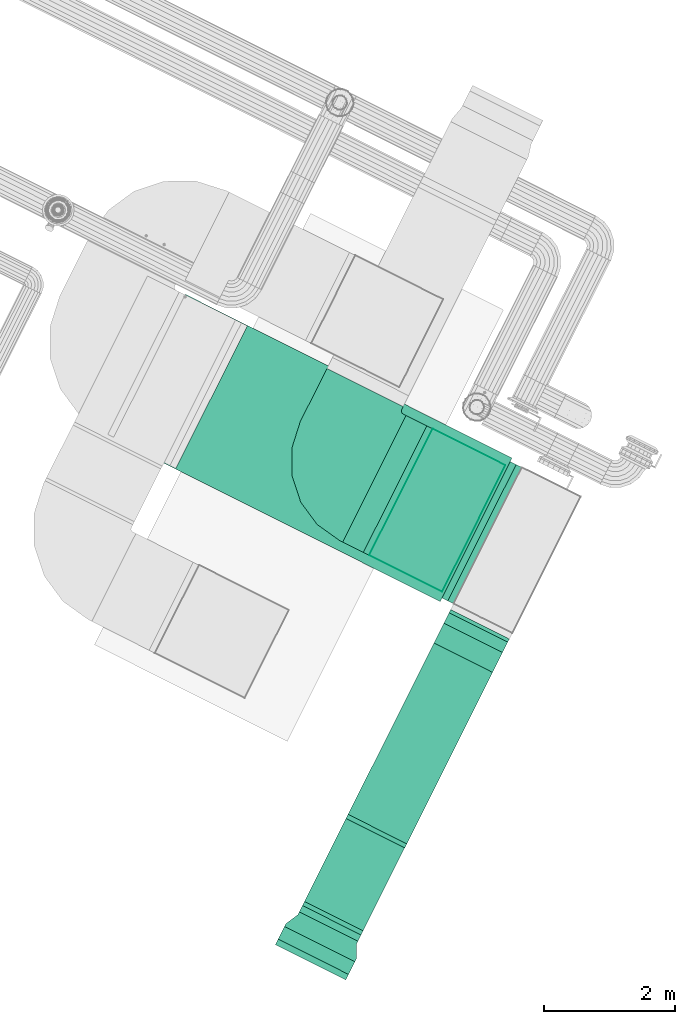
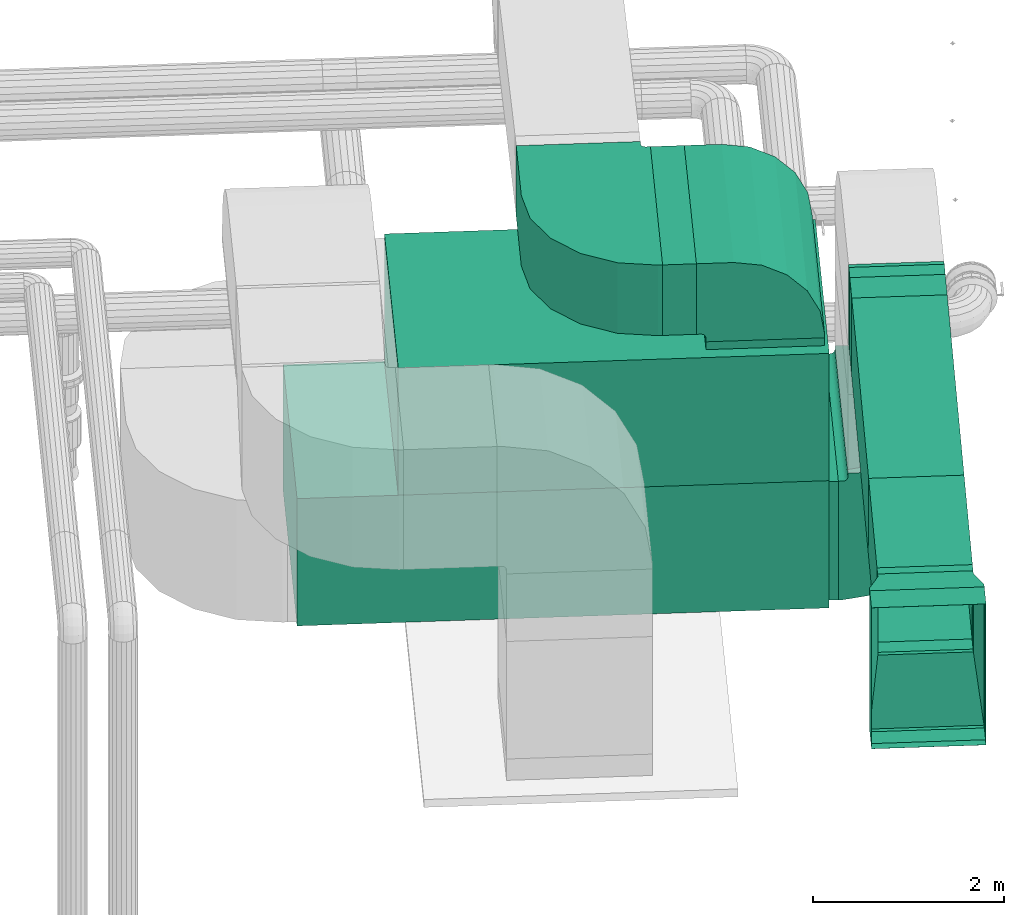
# One storey, part 6 of 152: 6 flow fittings, 5 flow segments, 2 distribution flow elements, 2 flow moving devices, 1 flow terminal, 1 flow treatment device.
"""IFC2X3 building model written with IfcOpenShell, lengths in metres."""

from ifc_helpers import new_model, si_unit, derived_unit, direction, frame, origin, place, context, subcontext, project, spatial, face_set, surface_model, source, transform, mapped, material, type_object, type_shapes, element, save


model = new_model("IFC2X3")

# Units and contexts
model_context = context("Model", 3, precision=5.2338327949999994e-05, world=origin(), true_north=direction((0.0, 1.0)))
body_context = subcontext(model_context, "Body", "Model", "MODEL_VIEW")
ifc_project = project(units=[si_unit("LENGTHUNIT", "METRE"), si_unit("AREAUNIT", "SQUARE_METRE"), si_unit("VOLUMEUNIT", "CUBIC_METRE"), si_unit("MASSUNIT", "GRAM", prefix="KILO"), si_unit("PLANEANGLEUNIT", "RADIAN"), derived_unit("THERMALTRANSMITTANCEUNIT", [(si_unit("MASSUNIT", "GRAM", prefix="KILO"), 1), (si_unit("THERMODYNAMICTEMPERATUREUNIT", "KELVIN"), -1), (si_unit("TIMEUNIT", "SECOND"), -3)])], contexts=[model_context])

# Site, building, storey
site_placement = place(None, frame((0.0, 0.0, 0.0), z_axis=(0.0, 0.0, 1.0), x_axis=(0.8939966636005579, -0.4480736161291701, 0.0)))
site = spatial("IfcSite", under=ifc_project, at=site_placement, Name="Default", CompositionType="ELEMENT")
building_placement = place(site_placement, origin())
building = spatial("IfcBuilding", under=site, at=building_placement, CompositionType="ELEMENT")
storey_placement = place(building_placement, frame((0.0, 0.0, 2.7499999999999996)))
storey = spatial("IfcBuildingStorey", under=building, at=storey_placement, Name="1. Obergeschoss", CompositionType="ELEMENT", Elevation=2.7499999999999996)

# Flow moving device
ifc_material_1 = material(Name="IfcSurfaceStyle #271184")
distribution_element_type_1 = type_object("IfcDistributionElementType", Name="Geräteanschluss:Geräteanschluss", material=ifc_material_1)
shared_shape_1 = source(origin(), body_context, "Body", "SurfaceModel", [
    surface_model("IfcFaceBasedSurfaceModel", [(33.279999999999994, 8.03786958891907, 6.1979999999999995), (33.279999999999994, 8.03786958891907, 6.298), (33.279999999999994, 5.877869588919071, 6.298), (33.279999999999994, 5.877869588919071, 6.1979999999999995), (32.038000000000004, 5.877869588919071, 6.298), (32.038000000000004, 5.877869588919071, 6.1979999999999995), (32.038000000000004, 8.03786958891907, 6.298), (32.038000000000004, 8.03786958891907, 6.1979999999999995)], [face_set([[[0, 1, 2, 3]], [[3, 2, 4, 5]], [[5, 4, 6, 7]], [[7, 6, 1, 0]]])]),
])
type_shapes(distribution_element_type_1, [shared_shape_1])
flow_moving_device_1_placement = place(storey_placement, frame((0.0, 0.0, -2.7499999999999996)))
element("IfcFlowMovingDevice", 1, at=flow_moving_device_1_placement, inside=storey, type_object=distribution_element_type_1, material=ifc_material_1, Name="Geräteanschluss", ObjectType="Geräteanschluss", context=body_context, shape_type="MappedRepresentation", body=[
    mapped(shared_shape_1, transform((0.0, 0.0, 0.0), scale=1.0)),
])

# Distribution flow elements
ifc_material_2 = material(Name="IfcSurfaceStyle #271082")
distribution_element_type_2 = type_object("IfcDistributionElementType", Name="Lüftungsgerät Komponente:Lüftungsgerät Komponente", material=ifc_material_2)
shared_shape_2 = source(origin(), body_context, "Body", "SurfaceModel", [
    surface_model("IfcFaceBasedSurfaceModel", [(33.279999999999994, 8.18186958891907, 4.573999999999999), (33.279999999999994, 8.141869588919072, 4.574000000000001), (28.847, 8.141869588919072, 4.574000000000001), (28.847, 8.18186958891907, 4.573999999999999), (33.279999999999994, 8.18186958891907, 4.614), (28.847, 8.18186958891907, 4.614), (33.279999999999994, 5.733869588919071, 4.574), (33.279999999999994, 5.773869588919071, 4.574), (28.847, 5.773869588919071, 4.574), (28.847, 5.733869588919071, 4.574), (33.279999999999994, 5.733869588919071, 4.614), (28.847, 5.733869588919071, 4.614), (33.279999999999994, 8.18186958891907, 6.1979999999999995), (33.279999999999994, 8.141869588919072, 6.1979999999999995), (28.847, 8.141869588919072, 6.1979999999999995), (28.847, 8.18186958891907, 6.1979999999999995), (33.279999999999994, 8.18186958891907, 6.1579999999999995), (28.847, 8.18186958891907, 6.1579999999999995), (33.279999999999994, 5.733869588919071, 6.1979999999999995), (33.279999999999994, 5.773869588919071, 6.1979999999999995), (28.847, 5.773869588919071, 6.1979999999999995), (28.847, 5.733869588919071, 6.1979999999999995), (33.279999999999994, 5.733869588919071, 6.1579999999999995), (28.847, 5.733869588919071, 6.1579999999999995), (33.32, 8.18186958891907, 6.1979999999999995), (33.32, 5.733869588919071, 6.1979999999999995), (33.32, 5.773869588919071, 6.1579999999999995), (33.32, 8.141869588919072, 6.1579999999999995), (33.32, 5.733869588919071, 4.574), (33.32, 5.773869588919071, 4.614), (33.32, 8.18186958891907, 4.574), (33.32, 8.141869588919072, 4.614), (28.807000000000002, 8.18186958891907, 6.1979999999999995), (28.807000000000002, 5.733869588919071, 6.1979999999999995), (28.807000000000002, 5.773869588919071, 6.1579999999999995), (28.807000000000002, 8.141869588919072, 6.1579999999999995), (28.807000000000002, 5.733869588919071, 4.574), (28.807000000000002, 5.773869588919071, 4.614), (28.807000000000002, 8.18186958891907, 4.574), (28.807000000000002, 8.141869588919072, 4.614)], [face_set([[[0, 1, 2, 3]], [[0, 4, 5, 3]], [[6, 7, 8, 9]], [[6, 10, 11, 9]], [[12, 13, 14, 15]], [[12, 16, 17, 15]], [[18, 19, 20, 21]], [[18, 22, 23, 21]], [[24, 25, 26, 27]], [[25, 28, 29, 26]], [[30, 28, 29, 31]], [[24, 30, 31, 27]], [[30, 0, 12, 24]], [[24, 12, 18, 25]], [[25, 18, 6, 28]], [[28, 6, 0, 30]], [[32, 33, 34, 35]], [[33, 36, 37, 34]], [[38, 36, 37, 39]], [[32, 38, 39, 35]], [[3, 38, 32, 15]], [[15, 32, 33, 21]], [[21, 33, 36, 9]], [[9, 36, 38, 3]], [[24, 25, 28, 30]], [[38, 36, 33, 32]], [[5, 17, 16, 4]], [[10, 22, 23, 11]], [[15, 21, 18, 12]], [[0, 6, 9, 3]]])]),
])
type_shapes(distribution_element_type_2, [shared_shape_2])
distribution_flow_element_1_placement = place(storey_placement, frame((0.0, 0.0, -2.7499999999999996)))
element("IfcDistributionFlowElement", 2, at=distribution_flow_element_1_placement, inside=storey, type_object=distribution_element_type_2, material=ifc_material_2, Name="Lüftungsgerät Komponente", ObjectType="Lüftungsgerät Komponente", context=body_context, shape_type="MappedRepresentation", body=[
    mapped(shared_shape_2, transform((0.0, 0.0, 0.0), scale=1.0)),
])
distribution_element_type_3 = type_object("IfcDistributionElementType", Name="Lüftungsgerät Komponente 271590:Lüftungsgerät Komponente 271590", material=ifc_material_2)
shared_shape_3 = source(origin(), body_context, "Body", "SurfaceModel", [
    surface_model("IfcFaceBasedSurfaceModel", [(33.32, 8.18186958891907, 4.574), (33.32, 5.733869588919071, 4.574), (33.32, 5.773869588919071, 4.534), (33.32, 8.141869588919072, 4.534), (33.32, 5.733869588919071, 2.95), (33.32, 5.773869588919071, 2.9899999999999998), (33.32, 8.18186958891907, 2.95), (33.32, 8.141869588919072, 2.9899999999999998), (33.279999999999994, 8.18186958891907, 2.9499999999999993), (33.279999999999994, 8.18186958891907, 4.574), (33.279999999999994, 5.733869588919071, 4.574), (33.279999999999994, 5.733869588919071, 2.95), (33.279999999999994, 8.141869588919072, 2.9500000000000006), (27.786999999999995, 8.141869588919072, 2.9500000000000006), (27.786999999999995, 8.181869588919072, 2.9499999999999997), (33.279999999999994, 8.18186958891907, 2.9899999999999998), (27.786999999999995, 8.181869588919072, 2.9899999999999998), (33.279999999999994, 5.773869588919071, 2.95), (27.786999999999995, 5.773869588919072, 2.95), (27.786999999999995, 5.733869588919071, 2.95), (33.279999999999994, 5.733869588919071, 2.9899999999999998), (27.786999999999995, 5.733869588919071, 2.9899999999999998), (33.279999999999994, 8.141869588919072, 4.574), (27.786999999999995, 8.141869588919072, 4.574), (27.786999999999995, 8.181869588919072, 4.574), (33.279999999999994, 8.18186958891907, 4.534), (27.786999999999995, 8.181869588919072, 4.534), (33.279999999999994, 5.773869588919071, 4.574), (27.786999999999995, 5.773869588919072, 4.574), (27.786999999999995, 5.733869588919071, 4.574), (33.279999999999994, 5.733869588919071, 4.534), (27.786999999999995, 5.733869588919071, 4.534), (27.746999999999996, 8.181869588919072, 4.574), (27.746999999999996, 5.733869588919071, 4.574), (27.746999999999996, 5.773869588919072, 4.534), (27.746999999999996, 8.141869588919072, 4.534), (27.746999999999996, 5.733869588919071, 2.95), (27.746999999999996, 5.773869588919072, 2.9899999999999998), (27.746999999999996, 8.181869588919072, 2.95), (27.746999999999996, 8.141869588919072, 2.9899999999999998)], [face_set([[[0, 1, 2, 3]], [[1, 4, 5, 2]], [[6, 4, 5, 7]], [[0, 6, 7, 3]], [[6, 8, 9, 0]], [[0, 9, 10, 1]], [[1, 10, 11, 4]], [[4, 11, 8, 6]], [[0, 1, 4, 6]], [[8, 12, 13, 14]], [[8, 15, 16, 14]], [[11, 17, 18, 19]], [[11, 20, 21, 19]], [[9, 22, 23, 24]], [[9, 25, 26, 24]], [[10, 27, 28, 29]], [[10, 30, 31, 29]], [[32, 33, 34, 35]], [[33, 36, 37, 34]], [[38, 36, 37, 39]], [[32, 38, 39, 35]], [[14, 38, 32, 24]], [[24, 32, 33, 29]], [[29, 33, 36, 19]], [[19, 36, 38, 14]], [[38, 36, 33, 32]], [[16, 26, 25, 15]], [[20, 30, 31, 21]], [[24, 29, 10, 9]], [[8, 11, 19, 14]]])]),
])
type_shapes(distribution_element_type_3, [shared_shape_3])
distribution_flow_element_2_placement = place(storey_placement, frame((0.0, 0.0, -2.7499999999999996)))
element("IfcDistributionFlowElement", 3, at=distribution_flow_element_2_placement, inside=storey, type_object=distribution_element_type_3, material=ifc_material_2, Name="Lüftungsgerät Komponente", ObjectType="Lüftungsgerät Komponente", context=body_context, shape_type="MappedRepresentation", body=[
    mapped(shared_shape_3, transform((0.0, 0.0, 0.0), scale=1.0)),
])

# Flow segments
ifc_material_3 = material(Name="IfcSurfaceStyle #274455")
distribution_element_type_4 = type_object("IfcDistributionElementType", Name="Luftleitungsteil 274396:Luftleitungsteil 274396", material=ifc_material_3)
shared_shape_4 = source(origin(), body_context, "Body", "SurfaceModel", [
    surface_model("IfcFaceBasedSurfaceModel", [(33.42, -0.0705415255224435, 5.204246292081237), (33.42, 0.24063929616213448, 5.204246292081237), (34.62, 0.24063929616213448, 5.204246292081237), (34.62, -0.0705415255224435, 5.204246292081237), (34.62, 0.24063929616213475, 7.004246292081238), (34.62, -0.07054152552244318, 7.004246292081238), (33.42, 0.24063929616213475, 7.004246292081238), (33.42, -0.07054152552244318, 7.004246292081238)], [face_set([[[0, 1, 2, 3]], [[3, 2, 4, 5]], [[5, 4, 6, 7]], [[7, 6, 1, 0]]])]),
])
type_shapes(distribution_element_type_4, [shared_shape_4])
flow_segment_1_placement = place(storey_placement, frame((0.0, 0.0, -2.7499999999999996)))
element("IfcFlowSegment", 4, at=flow_segment_1_placement, inside=storey, type_object=distribution_element_type_4, material=ifc_material_3, Name="Luftleitungsteil", ObjectType="Luftleitungsteil", context=body_context, shape_type="MappedRepresentation", body=[
    mapped(shared_shape_4, transform((0.0, 0.0, 0.0), scale=1.0)),
])
distribution_element_type_5 = type_object("IfcDistributionElementType", Name="Luftleitung 274478:Luftleitung 274478", material=ifc_material_3)
shared_shape_5 = source(origin(), body_context, "Body", "SurfaceModel", [
    surface_model("IfcFaceBasedSurfaceModel", [(33.519999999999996, 2.133178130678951, 7.111830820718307), (33.519999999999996, 0.6480094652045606, 7.007977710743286), (34.52, 0.6480094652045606, 7.007977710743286), (34.52, 2.133178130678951, 7.111830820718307), (34.52, 0.717765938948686, 6.0104136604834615), (34.52, 2.2029346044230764, 6.114266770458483), (33.519999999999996, 0.7177659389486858, 6.01041366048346), (33.519999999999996, 2.2029346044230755, 6.114266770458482)], [face_set([[[0, 1, 2, 3]], [[3, 2, 4, 5]], [[5, 4, 6, 7]], [[7, 6, 1, 0]]])]),
])
type_shapes(distribution_element_type_5, [shared_shape_5])
flow_segment_2_placement = place(storey_placement, frame((0.0, 0.0, -2.7499999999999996)))
element("IfcFlowSegment", 5, at=flow_segment_2_placement, inside=storey, type_object=distribution_element_type_5, material=ifc_material_3, Name="Luftleitung", ObjectType="Luftleitung", context=body_context, shape_type="MappedRepresentation", body=[
    mapped(shared_shape_5, transform((0.0, 0.0, 0.0), scale=1.0)),
])

# Flow fitting
distribution_element_type_6 = type_object("IfcDistributionElementType", Name="Bogen symmetrisch 274544:Bogen symmetrisch 274544", material=ifc_material_3)
shared_shape_6 = source(origin(), body_context, "Body", "SurfaceModel", [
    surface_model("IfcFaceBasedSurfaceModel", [(34.52, 5.591869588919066, 7.351), (34.52, 5.6418695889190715, 7.351), (33.519999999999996, 5.6418695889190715, 7.351), (33.519999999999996, 5.591869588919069, 7.351), (34.52, 5.6418695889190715, 6.351), (34.52, 5.591869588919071, 6.351), (33.519999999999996, 5.591869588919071, 6.351), (33.519999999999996, 5.6418695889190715, 6.351), (33.519999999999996, 5.5848939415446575, 6.350756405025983), (33.519999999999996, 5.588379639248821, 6.350939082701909), (34.52, 5.588379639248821, 6.350939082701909), (34.52, 5.5848939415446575, 6.350756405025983), (34.52, 5.5350157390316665, 6.347268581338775), (33.519999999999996, 5.5350157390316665, 6.347268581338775), (34.52, 5.465259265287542, 7.3448326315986), (34.52, 5.515137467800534, 7.348320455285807), (33.519999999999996, 5.515137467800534, 7.348320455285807), (33.519999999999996, 5.465259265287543, 7.344832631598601), (33.519999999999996, 5.553480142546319, 7.350329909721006), (34.52, 5.553480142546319, 7.350329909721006)], [face_set([[[0, 1, 2, 3]], [[4, 5, 6, 7]], [[8, 9, 10, 11]], [[9, 6, 5, 10]], [[11, 12, 13, 8]], [[14, 15, 16, 17]], [[3, 18, 19, 0]], [[18, 16, 15, 19]], [[3, 2, 7]], [[3, 7, 6]], [[3, 6, 9]], [[3, 9, 8]], [[3, 8, 13]], [[3, 13, 17]], [[3, 17, 16]], [[3, 16, 18]], [[4, 1, 0]], [[5, 4, 0]], [[10, 5, 0]], [[11, 10, 0]], [[12, 11, 0]], [[14, 12, 0]], [[15, 14, 0]], [[19, 15, 0]]])]),
])
type_shapes(distribution_element_type_6, [shared_shape_6])
flow_fitting_1_placement = place(storey_placement, frame((0.0, 0.0, -2.7499999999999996)))
element("IfcFlowFitting", 6, at=flow_fitting_1_placement, inside=storey, type_object=distribution_element_type_6, material=ifc_material_3, Name="Bogen symmetrisch", ObjectType="Bogen symmetrisch", context=body_context, shape_type="MappedRepresentation", body=[
    mapped(shared_shape_6, transform((0.0, 0.0, 0.0), scale=1.0)),
])

# Flow terminal
distribution_element_type_7 = type_object("IfcDistributionElementType", Name="Wetterschutzgitter:Wetterschutzgitter", material=ifc_material_2)
shared_shape_7 = source(origin(), body_context, "Body", "SurfaceModel", [
    surface_model("IfcFaceBasedSurfaceModel", [(33.4205, 0.024458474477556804, 7.003746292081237), (33.4205, -0.0705415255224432, 7.003746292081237), (34.6195, -0.0705415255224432, 7.003746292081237), (34.6195, 0.024458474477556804, 7.003746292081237), (34.6195, -0.07054152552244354, 5.204746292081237), (34.6195, 0.024458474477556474, 5.204746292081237), (33.4205, -0.07054152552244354, 5.204746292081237), (33.4205, 0.024458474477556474, 5.204746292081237)], [face_set([[[0, 1, 2, 3]], [[3, 2, 4, 5]], [[5, 4, 6, 7]], [[7, 6, 1, 0]]])]),
])
type_shapes(distribution_element_type_7, [shared_shape_7])
flow_terminal_placement = place(storey_placement, frame((0.0, 0.0, -2.7499999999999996)))
element("IfcFlowTerminal", 7, at=flow_terminal_placement, inside=storey, type_object=distribution_element_type_7, material=ifc_material_2, Name="Wetterschutzgitter", ObjectType="Wetterschutzgitter", context=body_context, shape_type="MappedRepresentation", body=[
    mapped(shared_shape_7, transform((0.0, 0.0, 0.0), scale=1.0)),
])

# Flow fitting
distribution_element_type_8 = type_object("IfcDistributionElementType", Name="Bogen symmetrisch 274813:Bogen symmetrisch 274813", material=ifc_material_3)
shared_shape_8 = source(origin(), body_context, "Body", "SurfaceModel", [
    surface_model("IfcFaceBasedSurfaceModel", [(33.519999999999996, 0.5911556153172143, 6.004246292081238), (33.519999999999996, 0.6295450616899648, 6.004916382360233), (34.52, 0.6295450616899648, 6.004916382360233), (34.52, 0.5911556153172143, 6.004246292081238), (33.519999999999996, 0.667887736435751, 6.006925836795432), (34.52, 0.667887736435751, 6.006925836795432), (34.52, 0.5411556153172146, 6.004246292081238), (33.519999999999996, 0.5411556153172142, 6.004246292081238), (34.52, 0.5411556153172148, 7.004246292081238), (34.52, 0.5911556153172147, 7.004246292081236), (33.519999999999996, 0.5911556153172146, 7.004246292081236), (33.519999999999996, 0.5411556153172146, 7.0042462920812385), (33.519999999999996, 0.5981312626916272, 7.004489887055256), (33.519999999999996, 0.5946455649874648, 7.004307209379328), (34.52, 0.5946455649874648, 7.004307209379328), (34.52, 0.5981312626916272, 7.004489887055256), (34.52, 0.6480094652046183, 7.007977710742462), (33.519999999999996, 0.6480094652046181, 7.007977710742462), (34.52, 0.7177659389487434, 6.010413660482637), (33.519999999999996, 0.7177659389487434, 6.010413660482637)], [face_set([[[0, 1, 2, 3]], [[1, 4, 5, 2]], [[3, 6, 7, 0]], [[8, 9, 10, 11]], [[12, 13, 14, 15]], [[13, 10, 9, 14]], [[15, 16, 17, 12]], [[18, 5, 4, 19]], [[4, 1, 0]], [[4, 0, 7]], [[4, 7, 11]], [[4, 11, 10]], [[4, 10, 13]], [[4, 13, 12]], [[4, 12, 17]], [[4, 17, 19]], [[3, 2, 5]], [[6, 3, 5]], [[8, 6, 5]], [[9, 8, 5]], [[14, 9, 5]], [[15, 14, 5]], [[16, 15, 5]], [[18, 16, 5]]])]),
])
type_shapes(distribution_element_type_8, [shared_shape_8])
flow_fitting_2_placement = place(storey_placement, frame((0.0, 0.0, -2.7499999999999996)))
element("IfcFlowFitting", 8, at=flow_fitting_2_placement, inside=storey, type_object=distribution_element_type_8, material=ifc_material_3, Name="Bogen symmetrisch", ObjectType="Bogen symmetrisch", context=body_context, shape_type="MappedRepresentation", body=[
    mapped(shared_shape_8, transform((0.0, 0.0, 0.0), scale=1.0)),
])

# Flow treatment device
distribution_element_type_9 = type_object("IfcDistributionElementType", Name="Schalldämpfer:Schalldämpfer", material=ifc_material_2)
shared_shape_9 = source(origin(), body_context, "Body", "SurfaceModel", [
    surface_model("IfcFaceBasedSurfaceModel", [(33.519999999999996, 5.125870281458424, 7.321100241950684), (33.519999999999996, 2.1331781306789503, 7.111830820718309), (34.52, 2.1331781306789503, 7.111830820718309), (34.52, 5.125870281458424, 7.321100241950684), (34.52, 2.202934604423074, 6.114266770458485), (34.52, 5.19562675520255, 6.323536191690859), (33.519999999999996, 2.202934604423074, 6.114266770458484), (33.519999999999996, 5.195626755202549, 6.323536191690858)], [face_set([[[0, 1, 2, 3]], [[3, 2, 4, 5]], [[5, 4, 6, 7]], [[7, 6, 1, 0]]])]),
])
type_shapes(distribution_element_type_9, [shared_shape_9])
flow_treatment_device_placement = place(storey_placement, frame((0.0, 0.0, -2.7499999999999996)))
element("IfcFlowTreatmentDevice", 9, at=flow_treatment_device_placement, inside=storey, type_object=distribution_element_type_9, material=ifc_material_2, Name="Schalldämpfer", ObjectType="Schalldämpfer", context=body_context, shape_type="MappedRepresentation", body=[
    mapped(shared_shape_9, transform((0.0, 0.0, 0.0), scale=1.0)),
])

# Flow segment
distribution_element_type_10 = type_object("IfcDistributionElementType", Name="Luftleitungsteil 275061:Luftleitungsteil 275061", material=ifc_material_3)
shared_shape_10 = source(origin(), body_context, "Body", "SurfaceModel", [
    surface_model("IfcFaceBasedSurfaceModel", [(33.519999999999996, 5.195626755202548, 6.323536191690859), (33.519999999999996, 5.5350157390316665, 6.347268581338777), (34.52, 5.5350157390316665, 6.347268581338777), (34.52, 5.195626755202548, 6.323536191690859), (34.52, 5.46525926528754, 7.344832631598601), (34.52, 5.125870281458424, 7.321100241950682), (33.519999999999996, 5.46525926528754, 7.344832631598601), (33.519999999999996, 5.125870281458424, 7.321100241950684)], [face_set([[[0, 1, 2, 3]], [[3, 2, 4, 5]], [[5, 4, 6, 7]], [[7, 6, 1, 0]]])]),
])
type_shapes(distribution_element_type_10, [shared_shape_10])
flow_segment_3_placement = place(storey_placement, frame((0.0, 0.0, -2.7499999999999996)))
element("IfcFlowSegment", 10, at=flow_segment_3_placement, inside=storey, type_object=distribution_element_type_10, material=ifc_material_3, Name="Luftleitungsteil", ObjectType="Luftleitungsteil", context=body_context, shape_type="MappedRepresentation", body=[
    mapped(shared_shape_10, transform((0.0, 0.0, 0.0), scale=1.0)),
])

# Flow fittings
distribution_element_type_11 = type_object("IfcDistributionElementType", Name="Bogen asymmetrisch 275258:Bogen asymmetrisch 275258", material=ifc_material_1)
shared_shape_11 = source(origin(), body_context, "Body", "SurfaceModel", [
    surface_model("IfcFaceBasedSurfaceModel", [(33.279999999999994, 8.03786958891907, 6.347999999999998), (33.23350369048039, 8.03786958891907, 6.641566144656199), (33.23350369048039, 5.877869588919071, 6.641566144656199), (33.279999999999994, 5.877869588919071, 6.347999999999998), (33.09856614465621, 8.03786958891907, 6.906395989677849), (33.09856614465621, 5.877869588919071, 6.906395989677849), (32.88839598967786, 8.03786958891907, 7.1165661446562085), (32.88839598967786, 5.877869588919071, 7.1165661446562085), (32.62356614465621, 8.03786958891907, 7.251503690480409), (32.62356614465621, 5.877869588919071, 7.251503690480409), (32.33000000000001, 8.03786958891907, 7.2980000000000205), (32.33000000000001, 5.877869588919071, 7.2980000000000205), (33.279999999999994, 5.877869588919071, 6.297999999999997), (33.279999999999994, 8.03786958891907, 6.297999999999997), (32.038, 5.877869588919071, 6.2980000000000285), (32.038, 5.877869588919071, 6.348000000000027), (32.038, 8.03786958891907, 6.348000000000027), (32.038, 8.03786958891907, 6.2980000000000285), (31.987999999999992, 8.03786958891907, 6.39800000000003), (32.003450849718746, 8.03786958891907, 6.395552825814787), (32.003450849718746, 5.877869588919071, 6.395552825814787), (31.987999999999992, 5.877869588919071, 6.39800000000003), (32.01738926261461, 8.03786958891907, 6.388450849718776), (32.01738926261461, 5.877869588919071, 6.388450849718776), (32.028450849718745, 8.03786958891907, 6.3773892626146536), (32.028450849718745, 5.877869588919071, 6.3773892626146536), (32.03555282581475, 8.03786958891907, 6.363450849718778), (32.03555282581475, 5.877869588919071, 6.363450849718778), (31.937999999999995, 5.877869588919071, 6.398000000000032), (31.937999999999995, 8.03786958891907, 6.398000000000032), (31.93800000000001, 5.877869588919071, 7.29800000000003), (31.93800000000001, 8.03786958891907, 7.29800000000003)], [face_set([[[0, 1, 2, 3]], [[1, 4, 5, 2]], [[4, 6, 7, 5]], [[6, 8, 9, 7]], [[8, 10, 11, 9]], [[3, 12, 13, 0]], [[14, 15, 16, 17]], [[18, 19, 20, 21]], [[19, 22, 23, 20]], [[22, 24, 25, 23]], [[24, 26, 27, 25]], [[26, 16, 15, 27]], [[21, 28, 29, 18]], [[30, 11, 10, 31]], [[10, 8, 6]], [[10, 6, 4]], [[10, 4, 1]], [[10, 1, 0]], [[10, 0, 13]], [[10, 13, 17]], [[10, 17, 16]], [[10, 16, 26]], [[10, 26, 24]], [[10, 24, 22]], [[10, 22, 19]], [[10, 19, 18]], [[10, 18, 29]], [[10, 29, 31]], [[7, 9, 11]], [[5, 7, 11]], [[2, 5, 11]], [[3, 2, 11]], [[12, 3, 11]], [[14, 12, 11]], [[15, 14, 11]], [[27, 15, 11]], [[25, 27, 11]], [[23, 25, 11]], [[20, 23, 11]], [[21, 20, 11]], [[28, 21, 11]], [[30, 28, 11]]])]),
])
type_shapes(distribution_element_type_11, [shared_shape_11])
flow_fitting_3_placement = place(storey_placement, frame((0.0, 0.0, -2.7499999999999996)))
element("IfcFlowFitting", 11, at=flow_fitting_3_placement, inside=storey, type_object=distribution_element_type_11, material=ifc_material_1, Name="Bogen asymmetrisch", ObjectType="Bogen asymmetrisch", context=body_context, shape_type="MappedRepresentation", body=[
    mapped(shared_shape_11, transform((0.0, 0.0, 0.0), scale=1.0)),
])
distribution_element_type_12 = type_object("IfcDistributionElementType", Name="Bogen asymmetrisch 275561:Bogen asymmetrisch 275561", material=ifc_material_1)
shared_shape_12 = source(origin(), body_context, "Body", "SurfaceModel", [
    surface_model("IfcFaceBasedSurfaceModel", [(31.534074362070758, 5.877869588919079, 7.298), (31.116901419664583, 5.943943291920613, 7.298), (31.11690141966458, 5.943943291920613, 6.397999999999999), (31.534074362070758, 5.877869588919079, 6.397999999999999), (30.74056427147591, 6.135696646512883, 7.298), (30.74056427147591, 6.135696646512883, 6.397999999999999), (30.44190141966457, 6.43435949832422, 7.298), (30.44190141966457, 6.43435949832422, 6.397999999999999), (30.25014806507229, 6.810696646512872, 7.298), (30.25014806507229, 6.810696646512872, 6.398), (30.184074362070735, 7.227869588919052, 7.298), (30.184074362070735, 7.227869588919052, 6.398), (31.584074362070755, 5.877869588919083, 6.397999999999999), (31.584074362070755, 5.877869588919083, 7.298), (31.584074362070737, 8.037869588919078, 6.397999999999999), (31.534074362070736, 8.037869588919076, 6.397999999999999), (31.534074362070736, 8.037869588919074, 7.298), (31.584074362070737, 8.037869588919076, 7.298), (31.484074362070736, 8.087869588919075, 7.298), (31.486521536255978, 8.07241873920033, 7.298), (31.486521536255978, 8.07241873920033, 6.398), (31.484074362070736, 8.087869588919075, 6.398), (31.49362351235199, 8.05848032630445, 7.298), (31.49362351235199, 8.05848032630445, 6.398), (31.504685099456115, 8.047418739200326, 7.298), (31.504685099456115, 8.047418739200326, 6.398), (31.518623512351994, 8.040316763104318, 7.298), (31.518623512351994, 8.040316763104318, 6.398), (31.484074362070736, 8.137869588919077, 6.398), (31.484074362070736, 8.137869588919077, 7.298), (30.18407436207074, 8.13786958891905, 6.398), (30.18407436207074, 8.13786958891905, 7.298)], [face_set([[[0, 1, 2, 3]], [[1, 4, 5, 2]], [[4, 6, 7, 5]], [[6, 8, 9, 7]], [[8, 10, 11, 9]], [[3, 12, 13, 0]], [[14, 15, 16, 17]], [[18, 19, 20, 21]], [[19, 22, 23, 20]], [[22, 24, 25, 23]], [[24, 26, 27, 25]], [[26, 16, 15, 27]], [[21, 28, 29, 18]], [[30, 11, 10, 31]], [[10, 8, 6]], [[10, 6, 4]], [[10, 4, 1]], [[10, 1, 0]], [[10, 0, 13]], [[10, 13, 17]], [[10, 17, 16]], [[10, 16, 26]], [[10, 26, 24]], [[10, 24, 22]], [[10, 22, 19]], [[10, 19, 18]], [[10, 18, 29]], [[10, 29, 31]], [[7, 9, 11]], [[5, 7, 11]], [[2, 5, 11]], [[3, 2, 11]], [[12, 3, 11]], [[14, 12, 11]], [[15, 14, 11]], [[27, 15, 11]], [[25, 27, 11]], [[23, 25, 11]], [[20, 23, 11]], [[21, 20, 11]], [[28, 21, 11]], [[30, 28, 11]]])]),
])
type_shapes(distribution_element_type_12, [shared_shape_12])
flow_fitting_4_placement = place(storey_placement, frame((0.0, 0.0, -2.7499999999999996)))
element("IfcFlowFitting", 12, at=flow_fitting_4_placement, inside=storey, type_object=distribution_element_type_12, material=ifc_material_1, Name="Bogen asymmetrisch", ObjectType="Bogen asymmetrisch", context=body_context, shape_type="MappedRepresentation", body=[
    mapped(shared_shape_12, transform((0.0, 0.0, 0.0), scale=1.0)),
])

# Flow segment
distribution_element_type_13 = type_object("IfcDistributionElementType", Name="Luftleitungsteil 275866:Luftleitungsteil 275866", material=ifc_material_1)
shared_shape_13 = source(origin(), body_context, "Body", "SurfaceModel", [
    surface_model("IfcFaceBasedSurfaceModel", [(31.938, 8.03786958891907, 7.298), (31.584074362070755, 8.03786958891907, 7.298), (31.584074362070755, 5.877869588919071, 7.298), (31.938, 5.877869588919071, 7.298), (31.584074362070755, 5.877869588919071, 6.397999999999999), (31.938, 5.877869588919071, 6.397999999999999), (31.584074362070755, 8.03786958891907, 6.397999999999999), (31.938, 8.03786958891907, 6.397999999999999)], [face_set([[[0, 1, 2, 3]], [[3, 2, 4, 5]], [[5, 4, 6, 7]], [[7, 6, 1, 0]]])]),
])
type_shapes(distribution_element_type_13, [shared_shape_13])
flow_segment_4_placement = place(storey_placement, frame((0.0, 0.0, -2.7499999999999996)))
element("IfcFlowSegment", 13, at=flow_segment_4_placement, inside=storey, type_object=distribution_element_type_13, material=ifc_material_1, Name="Luftleitungsteil", ObjectType="Luftleitungsteil", context=body_context, shape_type="MappedRepresentation", body=[
    mapped(shared_shape_13, transform((0.0, 0.0, 0.0), scale=1.0)),
])

# Flow moving device
distribution_element_type_14 = type_object("IfcDistributionElementType", Name="Geräteanschluss 276213:Geräteanschluss 276213", material=ifc_material_3)
shared_shape_14 = source(origin(), body_context, "Body", "SurfaceModel", [
    surface_model("IfcFaceBasedSurfaceModel", [(33.32, 8.120369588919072, 4.519), (33.42, 8.120369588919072, 4.519), (33.42, 8.120369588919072, 3.0049999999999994), (33.32, 8.120369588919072, 3.0049999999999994), (33.42, 5.795369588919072, 3.0049999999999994), (33.32, 5.795369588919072, 3.0049999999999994), (33.42, 5.795369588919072, 4.519), (33.32, 5.795369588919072, 4.519)], [face_set([[[0, 1, 2, 3]], [[3, 2, 4, 5]], [[5, 4, 6, 7]], [[7, 6, 1, 0]]])]),
])
type_shapes(distribution_element_type_14, [shared_shape_14])
flow_moving_device_2_placement = place(storey_placement, frame((0.0, 0.0, -2.7499999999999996)))
element("IfcFlowMovingDevice", 14, at=flow_moving_device_2_placement, inside=storey, type_object=distribution_element_type_14, material=ifc_material_3, Name="Geräteanschluss", ObjectType="Geräteanschluss", context=body_context, shape_type="MappedRepresentation", body=[
    mapped(shared_shape_14, transform((0.0, 0.0, 0.0), scale=1.0)),
])

# Flow fitting
distribution_element_type_15 = type_object("IfcDistributionElementType", Name="Bogen asymmetrisch 276275:Bogen asymmetrisch 276275", material=ifc_material_3)
shared_shape_15 = source(origin(), body_context, "Body", "SurfaceModel", [
    surface_model("IfcFaceBasedSurfaceModel", [(34.52, 8.120369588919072, 4.055), (34.52, 8.120369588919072, 4.618999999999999), (34.52, 5.795369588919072, 4.618999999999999), (34.52, 5.795369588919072, 4.055), (33.519999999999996, 8.120369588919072, 4.618999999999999), (33.519999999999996, 8.120369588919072, 4.569), (33.519999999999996, 5.795369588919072, 4.569), (33.519999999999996, 5.795369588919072, 4.618999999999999), (33.47, 5.795369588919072, 4.519), (33.485450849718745, 5.795369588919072, 4.5214471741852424), (33.485450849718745, 8.120369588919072, 4.5214471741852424), (33.470000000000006, 8.120369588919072, 4.519000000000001), (33.49938926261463, 5.795369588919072, 4.528549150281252), (33.49938926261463, 8.120369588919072, 4.528549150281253), (33.510450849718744, 5.795369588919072, 4.5396107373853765), (33.510450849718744, 8.120369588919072, 4.5396107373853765), (33.51755282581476, 5.795369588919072, 4.553549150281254), (33.51755282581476, 8.120369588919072, 4.553549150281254), (33.42, 8.120369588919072, 4.519), (33.42, 5.795369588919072, 4.519), (33.42, 8.120369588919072, 3.0049999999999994), (33.47, 8.120369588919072, 3.0049999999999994), (33.47, 5.795369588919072, 3.0049999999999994), (33.42, 5.795369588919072, 3.0049999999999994), (34.468609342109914, 5.795369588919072, 3.7305321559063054), (34.468609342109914, 8.120369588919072, 3.7305321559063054), (34.3194678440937, 5.795369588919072, 3.437825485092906), (34.3194678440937, 8.120369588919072, 3.437825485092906), (34.0871745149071, 5.795369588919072, 3.2055321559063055), (34.0871745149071, 8.120369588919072, 3.2055321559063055), (33.7944678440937, 5.795369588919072, 3.05639065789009), (33.7944678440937, 8.120369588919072, 3.05639065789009)], [face_set([[[0, 1, 2, 3]], [[4, 5, 6, 7]], [[8, 9, 10, 11]], [[9, 12, 13, 10]], [[12, 14, 15, 13]], [[14, 16, 17, 15]], [[16, 6, 5, 17]], [[11, 18, 19, 8]], [[20, 21, 22, 23]], [[3, 24, 25, 0]], [[24, 26, 27, 25]], [[26, 28, 29, 27]], [[28, 30, 31, 29]], [[30, 22, 21, 31]], [[3, 2, 7]], [[3, 7, 6]], [[3, 6, 16]], [[3, 16, 14]], [[3, 14, 12]], [[3, 12, 9]], [[3, 9, 8]], [[3, 8, 19]], [[3, 19, 23]], [[3, 23, 22]], [[3, 22, 30]], [[3, 30, 28]], [[3, 28, 26]], [[3, 26, 24]], [[4, 1, 0]], [[5, 4, 0]], [[17, 5, 0]], [[15, 17, 0]], [[13, 15, 0]], [[10, 13, 0]], [[11, 10, 0]], [[18, 11, 0]], [[20, 18, 0]], [[21, 20, 0]], [[31, 21, 0]], [[29, 31, 0]], [[27, 29, 0]], [[25, 27, 0]]])]),
])
type_shapes(distribution_element_type_15, [shared_shape_15])
flow_fitting_5_placement = place(storey_placement, frame((0.0, 0.0, -2.7499999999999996)))
element("IfcFlowFitting", 15, at=flow_fitting_5_placement, inside=storey, type_object=distribution_element_type_15, material=ifc_material_3, Name="Bogen asymmetrisch", ObjectType="Bogen asymmetrisch", context=body_context, shape_type="MappedRepresentation", body=[
    mapped(shared_shape_15, transform((0.0, 0.0, 0.0), scale=1.0)),
])

# Flow segment
distribution_element_type_16 = type_object("IfcDistributionElementType", Name="Luftleitungsteil 276978:Luftleitungsteil 276978", material=ifc_material_3)
shared_shape_16 = source(origin(), body_context, "Body", "SurfaceModel", [
    surface_model("IfcFaceBasedSurfaceModel", [(34.52, 5.695369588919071, 6.351), (34.52, 5.6418695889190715, 6.351), (33.519999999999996, 5.6418695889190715, 6.351), (33.519999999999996, 5.695369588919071, 6.351), (33.519999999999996, 5.6418695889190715, 7.351), (33.519999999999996, 5.695369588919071, 7.351), (34.52, 5.6418695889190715, 7.351), (34.52, 5.695369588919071, 7.351)], [face_set([[[0, 1, 2, 3]], [[3, 2, 4, 5]], [[5, 4, 6, 7]], [[7, 6, 1, 0]]])]),
])
type_shapes(distribution_element_type_16, [shared_shape_16])
flow_segment_5_placement = place(storey_placement, frame((0.0, 0.0, -2.7499999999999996)))
element("IfcFlowSegment", 16, at=flow_segment_5_placement, inside=storey, type_object=distribution_element_type_16, material=ifc_material_3, Name="Luftleitungsteil", ObjectType="Luftleitungsteil", context=body_context, shape_type="MappedRepresentation", body=[
    mapped(shared_shape_16, transform((0.0, 0.0, 0.0), scale=1.0)),
])

# Flow fitting
distribution_element_type_17 = type_object("IfcDistributionElementType", Name="Übergang asymmetrisch 277344:Übergang asymmetrisch 277344", material=ifc_material_3)
shared_shape_17 = source(origin(), body_context, "Body", "SurfaceModel", [
    surface_model("IfcFaceBasedSurfaceModel", [(33.519999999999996, 0.5411556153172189, 7.0042462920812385), (33.519999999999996, 0.49115561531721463, 7.0042462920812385), (34.52, 0.49115561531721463, 7.0042462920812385), (34.52, 0.541155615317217, 7.0042462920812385), (34.52, 0.49115561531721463, 6.0042462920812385), (34.52, 0.5411556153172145, 6.0042462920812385), (33.519999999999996, 0.49115561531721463, 6.0042462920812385), (33.519999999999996, 0.5411556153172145, 6.0042462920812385), (33.42, 0.29063929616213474, 7.004246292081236), (33.42, 0.24063929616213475, 7.004246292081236), (34.62, 0.2406392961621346, 7.0042462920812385), (34.62, 0.29063929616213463, 7.0042462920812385), (34.62, 0.2406392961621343, 5.204246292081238), (34.62, 0.2906392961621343, 5.204246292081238), (33.42000000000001, 0.24063929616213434, 5.204246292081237), (33.42000000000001, 0.29063929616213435, 5.204246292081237)], [face_set([[[0, 1, 2, 3]], [[3, 2, 4, 5]], [[5, 4, 6, 7]], [[7, 6, 1, 0]], [[8, 9, 10, 11]], [[11, 10, 12, 13]], [[13, 12, 14, 15]], [[15, 14, 9, 8]], [[4, 13, 15, 6]], [[11, 2, 1, 8]], [[1, 6, 15]], [[1, 15, 8]], [[2, 4, 13]], [[2, 13, 11]]])]),
])
type_shapes(distribution_element_type_17, [shared_shape_17])
flow_fitting_6_placement = place(storey_placement, frame((0.0, 0.0, -2.7499999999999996)))
element("IfcFlowFitting", 17, at=flow_fitting_6_placement, inside=storey, type_object=distribution_element_type_17, material=ifc_material_3, Name="Übergang asymmetrisch", ObjectType="Übergang asymmetrisch", context=body_context, shape_type="MappedRepresentation", body=[
    mapped(shared_shape_17, transform((0.0, 0.0, 0.0), scale=1.0)),
])

save(model, "model.ifc")
